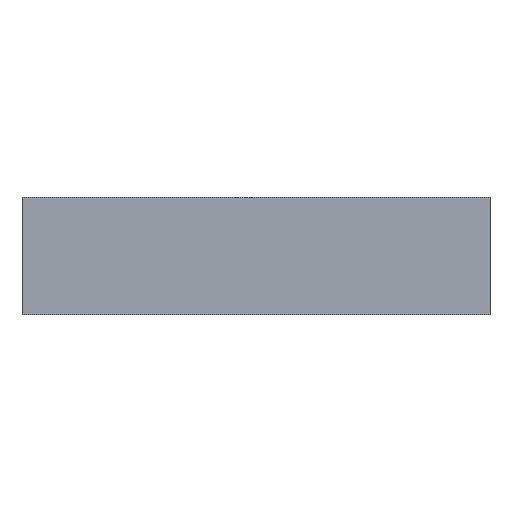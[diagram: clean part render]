
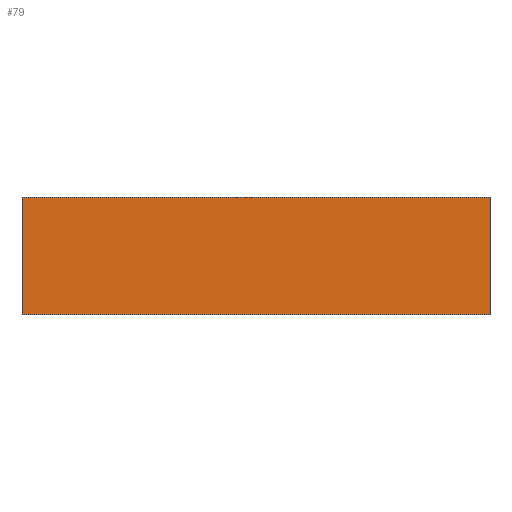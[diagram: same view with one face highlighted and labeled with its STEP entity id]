
A CAD part, top view. The second image highlights one B-rep face of the part: STEP entity #79.
In plain terms, the highlighted planar face has unit normal (0, 0, 1).
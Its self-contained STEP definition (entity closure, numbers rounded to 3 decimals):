
#79=ADVANCED_FACE('',(#90),#91,.T.);
#90=FACE_OUTER_BOUND('',#102,.T.);
#91=PLANE('',#103);
#102=EDGE_LOOP('',(#134,#135,#136,#137));
#103=AXIS2_PLACEMENT_3D('',#138,#139,#140);
#134=ORIENTED_EDGE('',*,*,#150,.T.);
#135=ORIENTED_EDGE('',*,*,#154,.T.);
#136=ORIENTED_EDGE('',*,*,#157,.T.);
#137=ORIENTED_EDGE('',*,*,#159,.T.);
#138=CARTESIAN_POINT('',(0.0,0.0,3.0));
#139=DIRECTION('',(-0.0,0.0,1.0));
#140=DIRECTION('',(1.0,-0.0,0.0));
#150=EDGE_CURVE('',#165,#163,#166,.T.);
#154=EDGE_CURVE('',#163,#170,#172,.T.);
#157=EDGE_CURVE('',#170,#175,#177,.T.);
#159=EDGE_CURVE('',#175,#165,#179,.T.);
#163=VERTEX_POINT('',#184);
#165=VERTEX_POINT('',#187);
#166=LINE('',#188,#189);
#170=VERTEX_POINT('',#195);
#172=LINE('',#198,#199);
#175=VERTEX_POINT('',#203);
#177=LINE('',#206,#207);
#179=LINE('',#210,#211);
#184=CARTESIAN_POINT('',(250.0,63.0,3.0));
#187=CARTESIAN_POINT('',(250.0,-63.0,3.0));
#188=CARTESIAN_POINT('',(250.0,63.0,3.0));
#189=VECTOR('',#214,1000.0);
#195=CARTESIAN_POINT('',(-250.0,63.0,3.0));
#198=CARTESIAN_POINT('',(-250.0,63.0,3.0));
#199=VECTOR('',#218,1000.0);
#203=CARTESIAN_POINT('',(-250.0,-63.0,3.0));
#206=CARTESIAN_POINT('',(-250.0,63.0,3.0));
#207=VECTOR('',#221,1000.0);
#210=CARTESIAN_POINT('',(-250.0,-63.0,3.0));
#211=VECTOR('',#223,1000.0);
#214=DIRECTION('',(0.,1.0,-0.0));
#218=DIRECTION('',(-1.0,-0.0,-0.0));
#221=DIRECTION('',(0.,-1.0,0.0));
#223=DIRECTION('',(1.0,0.0,0.0));
